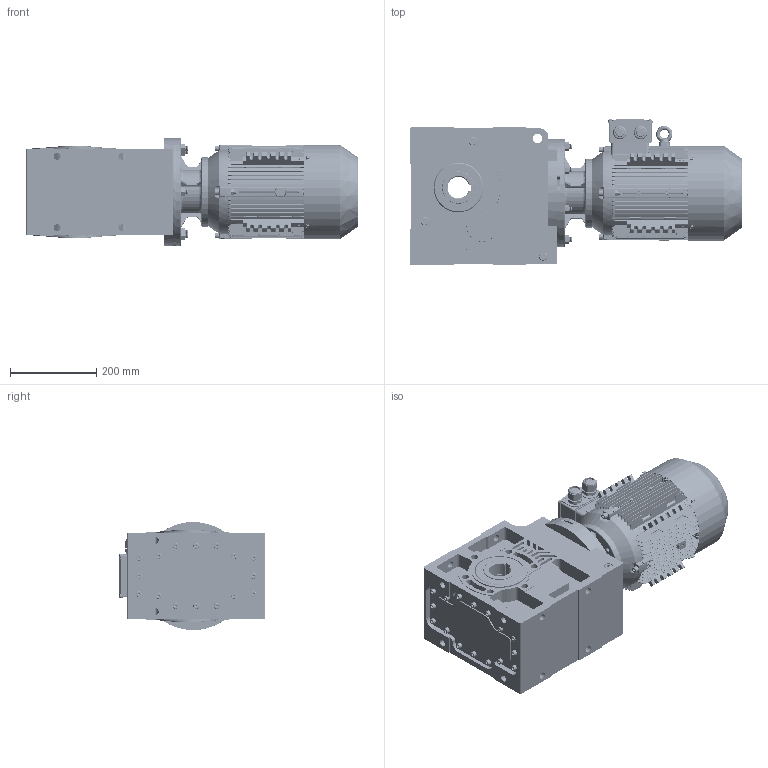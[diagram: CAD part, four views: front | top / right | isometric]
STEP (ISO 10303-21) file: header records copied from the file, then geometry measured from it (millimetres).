
FILE_DESCRIPTION (( 'STEP AP203' ), '1' );
FILE_NAME ('KV_473_0_MX3-112.STEP', '2018-11-21T09:57:22', ( '' ), ( '' ), 'SwSTEP 2.0', 'SolidWorks 2012', '' );
FILE_SCHEMA (( 'CONFIG_CONTROL_DESIGN' ));
Products named in the file (26): KV_473_0_MX3-112; DMX-IE3 112 Flange; DMX-IE3 112  cable glands_3; MX3-112_B14; cross recessed pan head screws gb_GB_CROSS_SCREWS_TYPE1 M5X12-12  H type-N_3; DMX-IE3 112terminal box cover_3; eyebolts gb_GB_FASTENER_SCREWS_FRS M8-N_3; hexagon flange head tapping screws gb_GB_SQUARE_AND_HEXAGON_TYPE137 ST4.8X9.5 C-N_3; hexagon socket head cap screws gb_GB_FASTENER_SCREWS_HSHCS M8X40-N_3; plain parallel keys_GB_CONNECTING_PIECE_KEYS_CSK 8X50_3; DMX-IE3 112terminal box base_3; DMX-IE3 112   fan cover_3; spring lock washers--normal type gb_GB_FASTENER_WASHER_SW 8_3; DMX-IE3 112 fan_3; hexagon nuts grade c gb_GB_FASTENER_NUT_SNC1 M8-N_3; circlips for shaft--type a large gb_GB_CONNECTING_PIECE_RING_RRA 28_3; deep groove ball bearings gb_Rolling bearings 6206 GB 276-94_3; DMX-IE3 112M4  oil seal_3; DMX-IE3 oil seal_3; DMX-IE3 112M4 casing_3; DMX-IE3 112 shaft_3; deep groove ball bearings gb_Rolling bearings 6306 GB 276-94_3; DMX-IE3 112 shield_3; 43100B14_Varsayìlan; K473_Varsayìlan; ML58A_Varsayìlan
Assembly tree (54 placements, depth 3):
  KV_473_0_MX3-112
    K473_Varsayìlan
    43100B14_Varsayìlan
    ML58A_Varsayìlan
    MX3-112_B14
      DMX-IE3 112M4 casing_3
      DMX-IE3 112 shaft_3
      DMX-IE3 112 shield_3
      deep groove ball bearings gb_Rolling bearings 6306 GB 276-94_3
      deep groove ball bearings gb_Rolling bearings 6206 GB 276-94_3
      DMX-IE3 112M4  oil seal_3
      DMX-IE3 oil seal_3
      DMX-IE3 112 fan_3
      circlips for shaft--type a large gb_GB_CONNECTING_PIECE_RING_RRA 28_3
      spring lock washers--normal type gb_GB_FASTENER_WASHER_SW 8_3  x8
      hexagon nuts grade c gb_GB_FASTENER_NUT_SNC1 M8-N_3  x8
      hexagon socket head cap screws gb_GB_FASTENER_SCREWS_HSHCS M8X40-N_3  x8
      DMX-IE3 112   fan cover_3
      plain parallel keys_GB_CONNECTING_PIECE_KEYS_CSK 8X50_3
      DMX-IE3 112terminal box base_3
      DMX-IE3 112terminal box cover_3
      cross recessed pan head screws gb_GB_CROSS_SCREWS_TYPE1 M5X12-12  H type-N_3  x4
      eyebolts gb_GB_FASTENER_SCREWS_FRS M8-N_3
      hexagon flange head tapping screws gb_GB_SQUARE_AND_HEXAGON_TYPE137 ST4.8X9.5 C-N_3  x5
      DMX-IE3 112  cable glands_3  x2
      DMX-IE3 112 Flange
Bounding box: 768.25 x 339.6 x 250 mm (x, y, z)
Volume: 20720899.6 mm3; surface area: 2344566.6 mm2
Topology: 53 solids, 59 shells, 7926 faces, 20583 edges, 12680 vertices
Faces by surface type: plane 2975, cylinder 2224, bspline 1717, cone 749, torus 151, sphere 110
Entity records: 305843 total; most frequent: CARTESIAN_POINT 134858, ORIENTED_EDGE 37656, DIRECTION 31613, EDGE_CURVE 18831, VERTEX_POINT 11727, AXIS2_PLACEMENT_3D 11379, LINE 8855, VECTOR 8855
